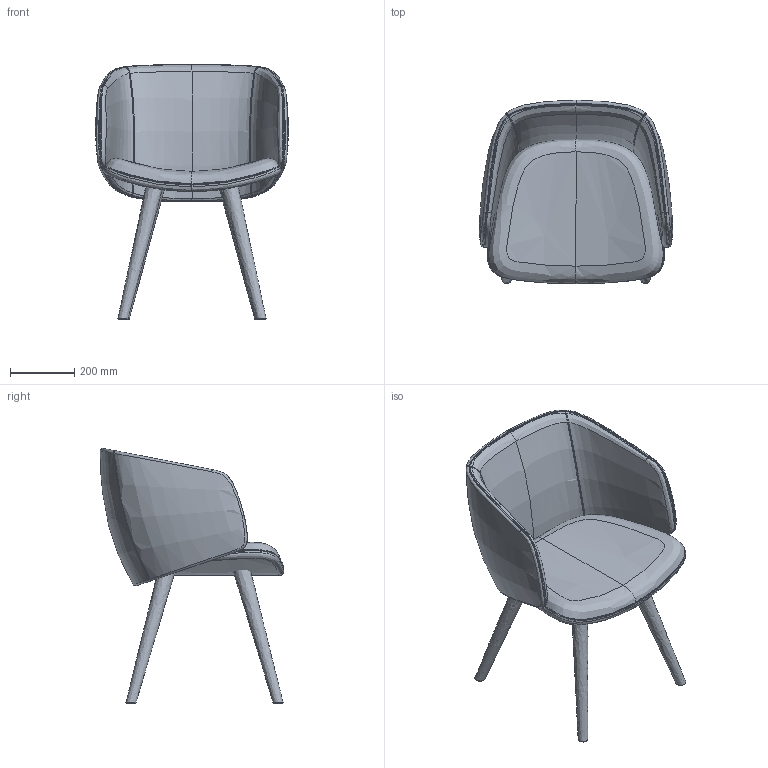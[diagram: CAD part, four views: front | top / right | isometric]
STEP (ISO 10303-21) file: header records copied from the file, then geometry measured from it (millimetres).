
FILE_DESCRIPTION(/* description */ (''),/* implementation_level */ '2;1');
FILE_NAME(/* name */ 'WINX WI 880_06',/* time_stamp */ '2018-09-02T21:17:51+02:00',/* author */ (''),/* organization */ (''),/* preprocessor_version */ 'ST-DEVELOPER v16.5',/* originating_system */ '',/* authorisation */ '');
FILE_SCHEMA (('AUTOMOTIVE_DESIGN'));
Length unit declared in the file: millimetre
Products named in the file (1): Document
Bounding box: 600.84 x 570.29 x 792.92 mm (x, y, z)
Surface area: 1588960.4 mm2 (no closed solid volume)
Topology: 0 solids, 12 shells, 120 faces, 263 edges, 158 vertices
Faces by surface type: bspline 108, plane 12
Entity records: 26906 total; most frequent: CARTESIAN_POINT 25241, ORIENTED_EDGE 456, EDGE_CURVE 260, B_SPLINE_CURVE_WITH_KNOTS 211, VERTEX_POINT 152, ADVANCED_FACE 120, FACE_OUTER_BOUND 120, EDGE_LOOP 120
